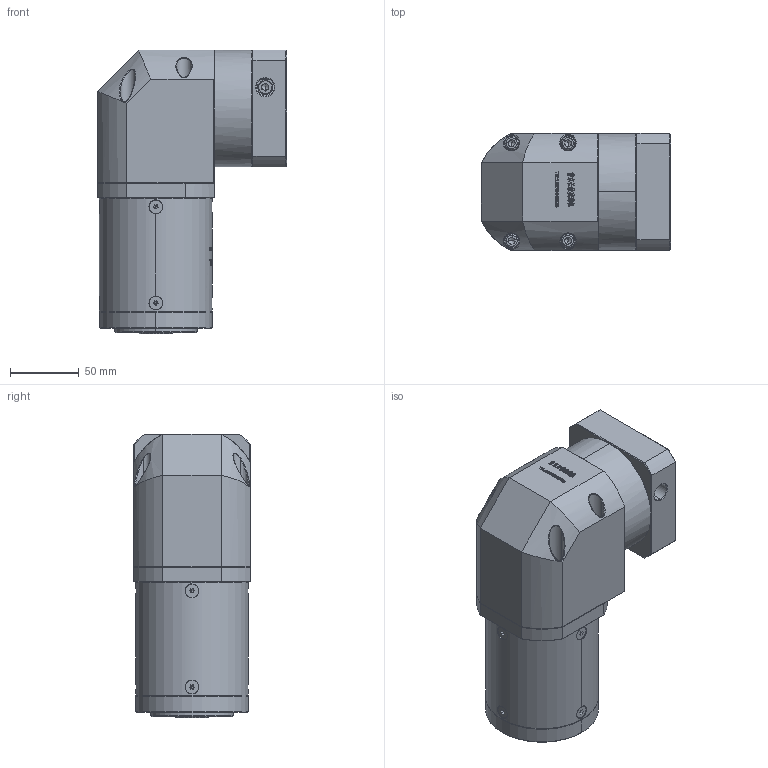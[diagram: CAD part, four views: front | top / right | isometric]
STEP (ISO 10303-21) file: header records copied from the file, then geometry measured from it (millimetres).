
FILE_DESCRIPTION (( 'STEP AP214' ), '1' );
FILE_NAME ('ZER80-K15-L3-19-70-90-M6.step', '2022-09-12T14:41:54', ( '' ), ( 'Microsoft' ), 'SwSTEP 2.0', 'SolidWorks 2016', '' );
FILE_SCHEMA (( 'AUTOMOTIVE_DESIGN' ));
Length unit declared in the file: millimetre
Products named in the file (1): ZER80-K15-L3-19-70-90-M6
Bounding box: 137.6 x 85 x 206.5 mm (x, y, z)
Volume: 1418510.3 mm3; surface area: 140416.2 mm2
Topology: 13 solids, 13 shells, 3095 faces, 8160 edges, 5207 vertices
Faces by surface type: plane 1607, bspline 626, cylinder 508, cone 340, torus 14
Entity records: 169528 total; most frequent: CARTESIAN_POINT 65224, ORIENTED_EDGE 16216, DIRECTION 12027, EDGE_CURVE 8108, VERTEX_POINT 5207, LINE 5025, VECTOR 5025, AXIS2_PLACEMENT_3D 3501
